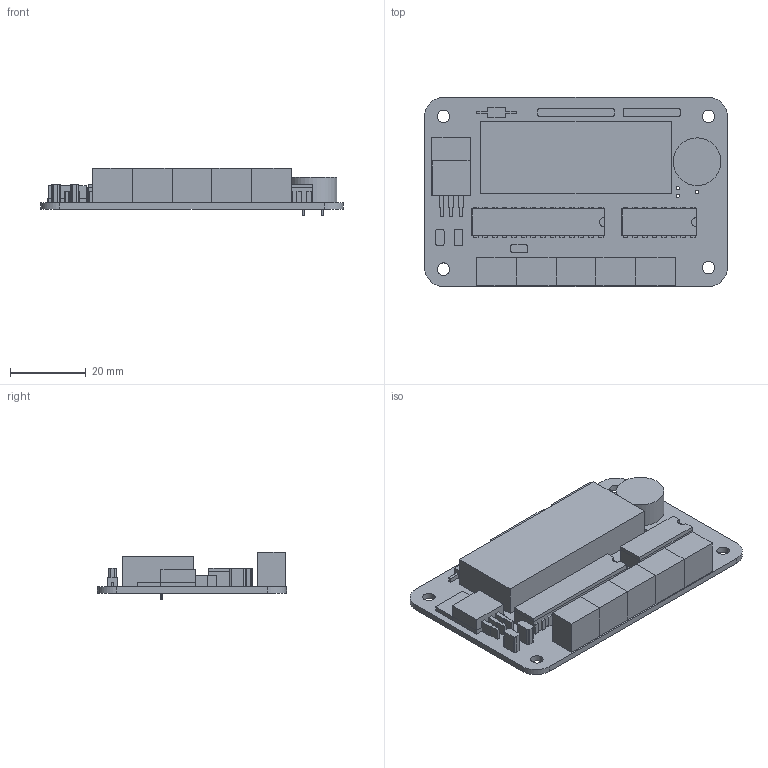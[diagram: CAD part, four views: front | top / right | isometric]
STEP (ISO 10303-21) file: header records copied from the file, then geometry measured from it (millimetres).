
FILE_DESCRIPTION (( 'STEP AP203' ), '1' );
FILE_NAME ('nopeustesti_203.STEP', '2019-08-21T19:54:38', ( '' ), ( '' ), 'SwSTEP 2.0', 'SolidWorks 2019', '' );
FILE_SCHEMA (( 'CONFIG_CONTROL_DESIGN' ));
Length unit declared in the file: millimetre
Products named in the file (1): nopeustesti_203
Bounding box: 80 x 50 x 12.6 mm (x, y, z)
Volume: 23652.4 mm3; surface area: 20520.9 mm2
Topology: 49 solids, 49 shells, 365 faces, 801 edges, 534 vertices
Faces by surface type: plane 296, cylinder 69
Entity records: 9946 total; most frequent: CARTESIAN_POINT 1701, DIRECTION 1671, ORIENTED_EDGE 1602, EDGE_CURVE 801, VECTOR 663, LINE 663, VERTEX_POINT 534, AXIS2_PLACEMENT_3D 504
